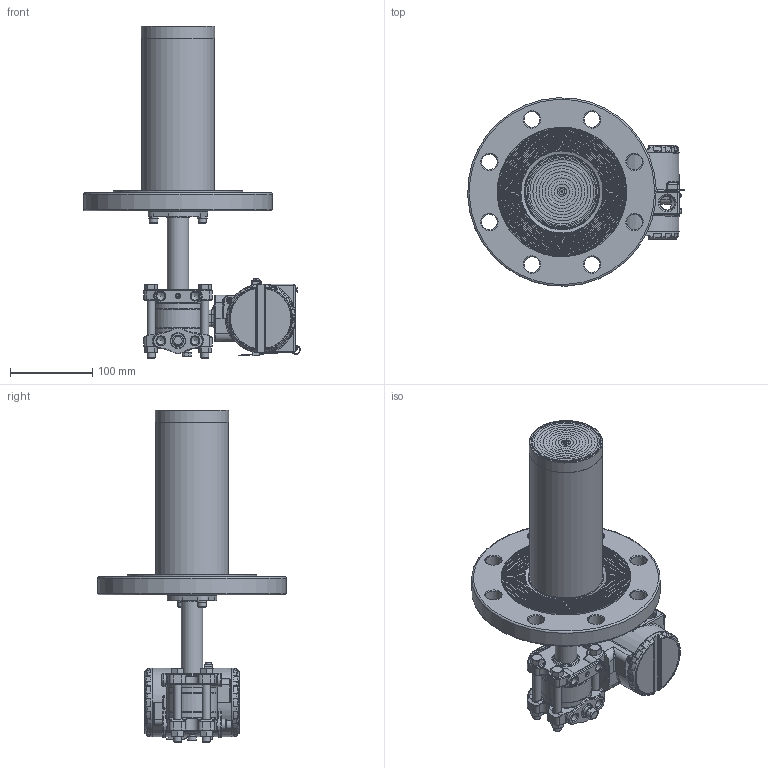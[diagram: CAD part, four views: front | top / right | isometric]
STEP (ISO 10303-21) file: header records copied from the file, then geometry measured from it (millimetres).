
FILE_DESCRIPTION(/* description */ (''),/* implementation_level */ '2;1');
FILE_NAME(/* name */ 'F:\Area\Desenvolvimento_2\Projects\Sensor\projetos\LD30X\montagens 3d - clientes\SELO NIVEL\LD30XL 4-150 RF ext 200 ref 1-4NPT purga acima.stp',/* time_stamp */ '2023-02-15T08:16:16-03:00',/* author */ ('inventor02'),/* organization */ (''),/* preprocessor_version */ 'ST-DEVELOPER v17',/* originating_system */ 'Autodesk Inventor 2019',/* authorisation */ '');
FILE_SCHEMA (('CONFIG_CONTROL_DESIGN'));
Products named in the file (41): LD30XL 4-150 RF ext 200 ref 1-4NPT purga acima; 204-0301-L-4 150 RF ext 200 purga acima; nivel fx3 com baixa diferencial 1-4NPT purga acima; involucro fx0-3 apos a usinagem final; flange diferencial std purga; 101-C-7484-01 flange selo nivel VR; 201-A-0504-tubo união teste 1; bujao 1-4NPT; Sangria; Porca 3-8 x 16 UNC; Paraf. 3-8 x 16 UNC; adaptação tubo x flanges 1-1-2 a 4pol; 101-B-0161-anel cortado do tubo - teste1; 101-B-0162-flange fixação tubo; ANSI B18.3.1M - M6x1 x 16; DIN 127 - A 6; flange 4 150 ext 200; 096-B-0212-15; 101-B-7702-02 ext 4-200; 101-C-0114-11; carcaça vazia com tampas e plaqueta; carcaça LD inox sem letras; Subconjunto plaqueta 300; Plaqueta transmissor; Parafuso da Plaqueta; Rebite da Plaqueta; 096-A-0169-03; 101-A-0502-01; Chapa aterramento externo; ISO 1207 - M4 x 8; DIN 915 - M6 x 10; ANSI B18.3.1M - M4x0,7 x 8; Subconjunto tampa com visor aluminio; tampa pintada; VIDRO DO VISOR; oring 41x1 vidro tampa; Trava do vidro da tampa com visor; trava do vidro VH256; Subconjunto tampa sem visor-aluminio; tampa cega 300 pintada p0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
Assembly tree (51 placements, depth 4):
  LD30XL 4-150 RF ext 200 ref 1-4NPT purga acima
    204-0301-L-4 150 RF ext 200 purga acima
      nivel fx3 com baixa diferencial 1-4NPT purga acima
        involucro fx0-3 apos a usinagem final
        flange diferencial std purga
        101-C-7484-01 flange selo nivel VR
        201-A-0504-tubo união teste 1
        DIN 915 - M6 x 10
        bujao 1-4NPT
        Sangria
        Porca 3-8 x 16 UNC  x4
        Paraf. 3-8 x 16 UNC  x4
      adaptação tubo x flanges 1-1-2 a 4pol
        101-B-0161-anel cortado do tubo - teste1
        101-B-0162-flange fixação tubo
        ANSI B18.3.1M - M6x1 x 16  x2
        DIN 127 - A 6  x2
      flange 4 150 ext 200
        096-B-0212-15
        101-B-7702-02 ext 4-200
        101-C-0114-11
    carcaça vazia com tampas e plaqueta
      carcaça LD inox sem letras
      Subconjunto plaqueta 300
        Plaqueta transmissor
        Parafuso da Plaqueta
        Rebite da Plaqueta
        096-A-0169-03
        101-A-0502-01
      Chapa aterramento externo
      ISO 1207 - M4 x 8
      DIN 915 - M6 x 10
      ANSI B18.3.1M - M4x0,7 x 8  x2
      Subconjunto tampa com visor aluminio
        tampa pintada
        VIDRO DO VISOR
        oring 41x1 vidro tampa
        Trava do vidro da tampa com visor
        trava do vidro VH256
        00034775-0
      Subconjunto tampa sem visor-aluminio
        tampa cega 300 pintada p0
        00034775-0
Bounding box: 262.48 x 228.38 x 402.6 mm (x, y, z)
Volume: 1843484.5 mm3; surface area: 477802.4 mm2
Topology: 43 solids, 43 shells, 2799 faces, 6670 edges, 3957 vertices
Faces by surface type: bspline 666, cylinder 660, plane 590, torus 501, cone 256, sphere 126
Full cylindrical faces by diameter (mm): 2 x4, 2.1 x2, 2.459 x5, 2.5 x1, 2.642 x1, 2.7 x1, 2.8 x1, 3 x4, 3.242 x4, 3.5 x5, 3.571 x1, 4 x5, 4.3 x1, 4.4 x1, 4.917 x4, 5 x1, 5.5 x3, 6 x6, 6.647 x1, 7 x7, 7.087 x2, 7.6 x2, 7.798 x4, 8 x1, 8.7 x2, 9.525 x4, 9.728 x6, 10 x2, 10.5 x8, 10.719 x2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
Entity records: 96163 total; most frequent: CARTESIAN_POINT 34875, DIRECTION 12705, ORIENTED_EDGE 12520, EDGE_CURVE 6260, AXIS2_PLACEMENT_3D 5625, VERTEX_POINT 3763, CIRCLE 3336, EDGE_LOOP 2877
